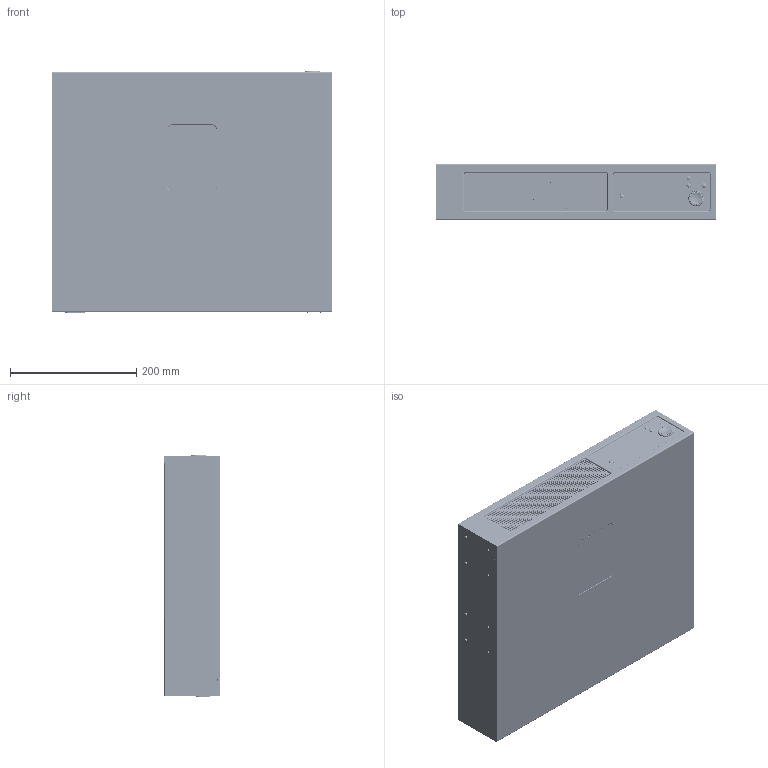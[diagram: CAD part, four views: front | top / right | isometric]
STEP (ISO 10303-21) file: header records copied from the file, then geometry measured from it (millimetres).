
FILE_DESCRIPTION (( 'STEP AP214' ), '1' );
FILE_NAME ('FG-901672-3D (FREE STANDING) - A.STEP', '2026-03-10T17:22:18', ( '' ), ( '' ), 'SwSTEP 2.0', 'SolidWorks 2023', '' );
FILE_SCHEMA (( 'AUTOMOTIVE_DESIGN' ));
Length unit declared in the file: millimetre
Products named in the file (1): FG-901672-3D (FREE STANDING) - A
Bounding box: 443 x 88 x 384.18 mm (x, y, z)
Volume: 14756056.5 mm3; surface area: 524386.5 mm2
Topology: 1 solids, 1 shells, 7269 faces, 17029 edges, 11099 vertices
Faces by surface type: plane 4783, cylinder 1704, bspline 344, torus 209, cone 167, sphere 62
Entity records: 261250 total; most frequent: CARTESIAN_POINT 43640, DIRECTION 34664, ORIENTED_EDGE 34058, EDGE_CURVE 17029, VECTOR 11834, LINE 11834, AXIS2_PLACEMENT_3D 11415, VERTEX_POINT 11099
